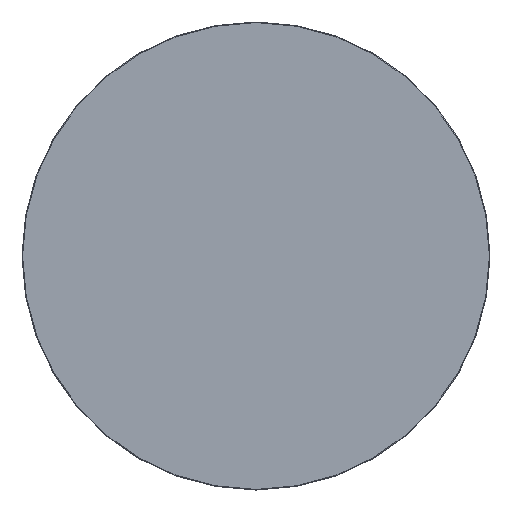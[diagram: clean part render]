
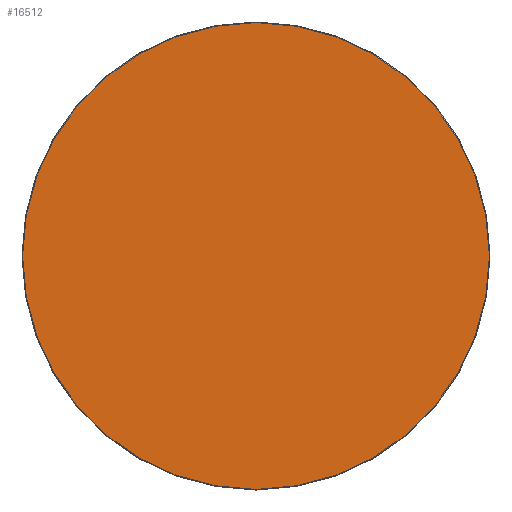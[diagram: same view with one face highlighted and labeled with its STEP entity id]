
A CAD part, top view. The second image highlights one B-rep face of the part: STEP entity #16512.
In plain terms, the highlighted planar face has unit normal (0, 0, 1).
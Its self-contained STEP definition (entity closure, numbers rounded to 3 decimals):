
#16437=CARTESIAN_POINT('',(0.,0.,20.));
#16438=DIRECTION('',(1.,0.,0.));
#16439=DIRECTION('',(0.,0.,1.));
#16440=AXIS2_PLACEMENT_3D('',#16437,#16439,#16438);
#16441=PLANE('',#16440);
#16442=CARTESIAN_POINT('',(-0.5,-548.5,20.));
#16443=VERTEX_POINT('',#16442);
#16444=CARTESIAN_POINT('',(0.5,-548.5,20.));
#16445=VERTEX_POINT('',#16444);
#16446=CARTESIAN_POINT('',(-0.5,-548.5,20.));
#16447=DIRECTION('',(1.,0.,0.));
#16448=VECTOR('',#16447,1.);
#16449=LINE('',#16446,#16448);
#16450=EDGE_CURVE('',#16443,#16445,#16449,.T.);
#16451=ORIENTED_EDGE('E105',*,*,#16450,.T.);
#16452=CARTESIAN_POINT('',(548.5,-0.5,20.));
#16453=VERTEX_POINT('',#16452);
#16454=CARTESIAN_POINT('',(0.5,-0.5,20.));
#16455=DIRECTION('',(0.,-1.,0.));
#16456=DIRECTION('',(0.,-0.,1.));
#16457=AXIS2_PLACEMENT_3D('',#16454,#16456,#16455);
#16458=CIRCLE('',#16457,548.);
#16459=EDGE_CURVE('',#16445,#16453,#16458,.T.);
#16460=ORIENTED_EDGE('E107',*,*,#16459,.T.);
#16461=CARTESIAN_POINT('',(548.5,0.5,20.));
#16462=VERTEX_POINT('',#16461);
#16463=CARTESIAN_POINT('',(548.5,-0.5,20.));
#16464=DIRECTION('',(0.,1.,0.));
#16465=VECTOR('',#16464,1.);
#16466=LINE('',#16463,#16465);
#16467=EDGE_CURVE('',#16453,#16462,#16466,.T.);
#16468=ORIENTED_EDGE('E109',*,*,#16467,.T.);
#16469=CARTESIAN_POINT('',(0.5,548.5,20.));
#16470=VERTEX_POINT('',#16469);
#16471=CARTESIAN_POINT('',(0.5,0.5,20.));
#16472=DIRECTION('',(1.,0.,0.));
#16473=DIRECTION('',(0.,0.,1.));
#16474=AXIS2_PLACEMENT_3D('',#16471,#16473,#16472);
#16475=CIRCLE('',#16474,548.);
#16476=EDGE_CURVE('',#16462,#16470,#16475,.T.);
#16477=ORIENTED_EDGE('E111',*,*,#16476,.T.);
#16478=CARTESIAN_POINT('',(-0.5,548.5,20.));
#16479=VERTEX_POINT('',#16478);
#16480=CARTESIAN_POINT('',(0.5,548.5,20.));
#16481=DIRECTION('',(-1.,0.,0.));
#16482=VECTOR('',#16481,1.);
#16483=LINE('',#16480,#16482);
#16484=EDGE_CURVE('',#16470,#16479,#16483,.T.);
#16485=ORIENTED_EDGE('E113',*,*,#16484,.T.);
#16486=CARTESIAN_POINT('',(-548.5,0.5,20.));
#16487=VERTEX_POINT('',#16486);
#16488=CARTESIAN_POINT('',(-0.5,0.5,20.));
#16489=DIRECTION('',(0.,1.,0.));
#16490=DIRECTION('',(0.,0.,1.));
#16491=AXIS2_PLACEMENT_3D('',#16488,#16490,#16489);
#16492=CIRCLE('',#16491,548.);
#16493=EDGE_CURVE('',#16479,#16487,#16492,.T.);
#16494=ORIENTED_EDGE('E115',*,*,#16493,.T.);
#16495=CARTESIAN_POINT('',(-548.5,-0.5,20.));
#16496=VERTEX_POINT('',#16495);
#16497=CARTESIAN_POINT('',(-548.5,0.5,20.));
#16498=DIRECTION('',(0.,-1.,0.));
#16499=VECTOR('',#16498,1.);
#16500=LINE('',#16497,#16499);
#16501=EDGE_CURVE('',#16487,#16496,#16500,.T.);
#16502=ORIENTED_EDGE('E117',*,*,#16501,.T.);
#16503=CARTESIAN_POINT('',(-0.5,-0.5,20.));
#16504=DIRECTION('',(-1.,0.,0.));
#16505=DIRECTION('',(-0.,0.,1.));
#16506=AXIS2_PLACEMENT_3D('',#16503,#16505,#16504);
#16507=CIRCLE('',#16506,548.);
#16508=EDGE_CURVE('',#16496,#16443,#16507,.T.);
#16509=ORIENTED_EDGE('E119',*,*,#16508,.T.);
#16510=EDGE_LOOP('',(#16451,#16460,#16468,#16477,#16485,#16494,#16502,#16509));
#16511=FACE_OUTER_BOUND('',#16510,.T.);
#16512=ADVANCED_FACE('F2',(#16511),#16441,.T.);
